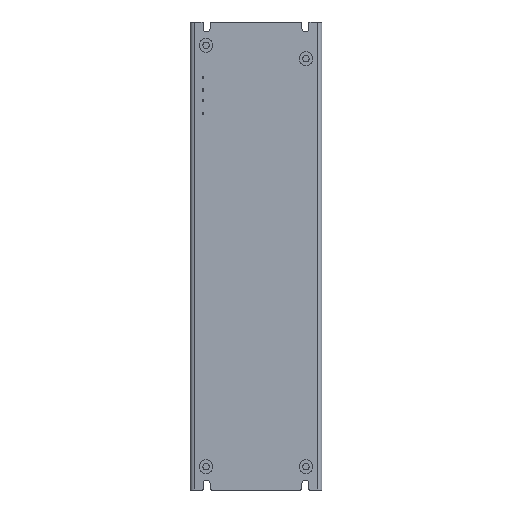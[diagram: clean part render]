
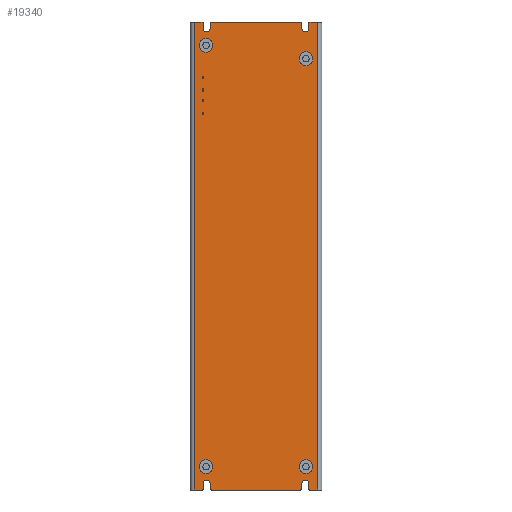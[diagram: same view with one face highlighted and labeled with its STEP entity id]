
A CAD part, front view. The second image highlights one B-rep face of the part: STEP entity #19340.
In plain terms, the highlighted planar face has unit normal (0, -1, 0) as drawn and (0, 0, -1) by its records, which use the part's own axes.
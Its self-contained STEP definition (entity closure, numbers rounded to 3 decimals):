
#970=CARTESIAN_POINT('',(27.973,50.41,178.));
#980=VERTEX_POINT('',#970);
#1010=CARTESIAN_POINT('',(27.473,50.41,178.));
#1020=DIRECTION('',(0.,0.,1.));
#1030=DIRECTION('',(0.,-1.,0.));
#1040=AXIS2_PLACEMENT_3D('',#1010,#1020,#1030);
#1050=CIRCLE('',#1040,0.5);
#1060=CARTESIAN_POINT('',(27.473,49.91,178.));
#1070=VERTEX_POINT('',#1060);
#1080=EDGE_CURVE('',#1070,#980,#1050,.T.);
#1660=CARTESIAN_POINT('',(27.473,49.91,178.));
#1670=DIRECTION('',(-1.,0.,0.));
#1680=VECTOR('',#1670,1.);
#1690=LINE('',#1660,#1680);
#1700=CARTESIAN_POINT('',(23.823,49.91,178.));
#1710=VERTEX_POINT('',#1700);
#1720=EDGE_CURVE('',#1070,#1710,#1690,.T.);
#16950=CARTESIAN_POINT('',(23.823,49.91,178.));
#16960=DIRECTION('',(0.,1.,0.));
#16970=VECTOR('',#16960,1.);
#16980=LINE('',#16950,#16970);
#16990=CARTESIAN_POINT('',(23.823,269.91,178.));
#17000=VERTEX_POINT('',#16990);
#17010=EDGE_CURVE('',#1710,#17000,#16980,.T.);
#17150=CARTESIAN_POINT('',(23.823,50.41,178.));
#17160=DIRECTION('',(0.,0.,-1.));
#17170=DIRECTION('',(-1.,0.,0.));
#17180=AXIS2_PLACEMENT_3D('',#17150,#17160,#17170);
#17190=PLANE('',#17180);
#17200=CARTESIAN_POINT('',(78.173,269.91,178.));
#17210=DIRECTION('',(1.,0.,0.));
#17220=VECTOR('',#17210,1.);
#17230=LINE('',#17200,#17220);
#17240=CARTESIAN_POINT('',(78.173,269.91,178.));
#17250=VERTEX_POINT('',#17240);
#17260=CARTESIAN_POINT('',(81.823,269.91,178.));
#17270=VERTEX_POINT('',#17260);
#17280=EDGE_CURVE('',#17250,#17270,#17230,.T.);
#17290=ORIENTED_EDGE('',*,*,#17280,.T.);
#17300=CARTESIAN_POINT('',(78.173,269.41,178.));
#17310=DIRECTION('',(0.,-0.,1.));
#17320=DIRECTION('',(0.,1.,0.));
#17330=AXIS2_PLACEMENT_3D('',#17300,#17310,#17320);
#17340=CIRCLE('',#17330,0.5);
#17350=CARTESIAN_POINT('',(77.673,269.41,178.));
#17360=VERTEX_POINT('',#17350);
#17370=EDGE_CURVE('',#17250,#17360,#17340,.T.);
#17380=ORIENTED_EDGE('',*,*,#17370,.F.);
#17390=CARTESIAN_POINT('',(77.673,266.91,178.));
#17400=DIRECTION('',(0.,1.,0.));
#17410=VECTOR('',#17400,1.);
#17420=LINE('',#17390,#17410);
#17430=CARTESIAN_POINT('',(77.673,266.91,178.));
#17440=VERTEX_POINT('',#17430);
#17450=EDGE_CURVE('',#17440,#17360,#17420,.T.);
#17460=ORIENTED_EDGE('',*,*,#17450,.T.);
#17470=CARTESIAN_POINT('',(76.023,266.91,178.));
#17480=DIRECTION('',(0.,0.,-1.));
#17490=DIRECTION('',(1.,0.,0.));
#17500=AXIS2_PLACEMENT_3D('',#17470,#17480,#17490);
#17510=CIRCLE('',#17500,1.65);
#17520=CARTESIAN_POINT('',(74.373,266.91,178.));
#17530=VERTEX_POINT('',#17520);
#17540=EDGE_CURVE('',#17440,#17530,#17510,.T.);
#17550=ORIENTED_EDGE('',*,*,#17540,.F.);
#17560=CARTESIAN_POINT('',(74.373,269.41,178.));
#17570=DIRECTION('',(0.,-1.,0.));
#17580=VECTOR('',#17570,1.);
#17590=LINE('',#17560,#17580);
#17600=CARTESIAN_POINT('',(74.373,269.41,178.));
#17610=VERTEX_POINT('',#17600);
#17620=EDGE_CURVE('',#17610,#17530,#17590,.T.);
#17630=ORIENTED_EDGE('',*,*,#17620,.T.);
#17640=CARTESIAN_POINT('',(73.873,269.41,178.));
#17650=DIRECTION('',(0.,0.,1.));
#17660=DIRECTION('',(1.,0.,0.));
#17670=AXIS2_PLACEMENT_3D('',#17640,#17650,#17660);
#17680=CIRCLE('',#17670,0.5);
#17690=CARTESIAN_POINT('',(73.873,269.91,178.));
#17700=VERTEX_POINT('',#17690);
#17710=EDGE_CURVE('',#17610,#17700,#17680,.T.);
#17720=ORIENTED_EDGE('',*,*,#17710,.F.);
#17730=CARTESIAN_POINT('',(31.773,269.91,178.));
#17740=DIRECTION('',(1.,0.,0.));
#17750=VECTOR('',#17740,1.);
#17760=LINE('',#17730,#17750);
#17770=CARTESIAN_POINT('',(31.773,269.91,178.));
#17780=VERTEX_POINT('',#17770);
#17790=EDGE_CURVE('',#17780,#17700,#17760,.T.);
#17800=ORIENTED_EDGE('',*,*,#17790,.T.);
#17810=CARTESIAN_POINT('',(31.773,269.41,178.));
#17820=DIRECTION('',(0.,-0.,1.));
#17830=DIRECTION('',(0.,1.,0.));
#17840=AXIS2_PLACEMENT_3D('',#17810,#17820,#17830);
#17850=CIRCLE('',#17840,0.5);
#17860=CARTESIAN_POINT('',(31.273,269.41,178.));
#17870=VERTEX_POINT('',#17860);
#17880=EDGE_CURVE('',#17780,#17870,#17850,.T.);
#17890=ORIENTED_EDGE('',*,*,#17880,.F.);
#17900=CARTESIAN_POINT('',(31.273,266.91,178.));
#17910=DIRECTION('',(0.,1.,0.));
#17920=VECTOR('',#17910,1.);
#17930=LINE('',#17900,#17920);
#17940=CARTESIAN_POINT('',(31.273,266.91,178.));
#17950=VERTEX_POINT('',#17940);
#17960=EDGE_CURVE('',#17950,#17870,#17930,.T.);
#17970=ORIENTED_EDGE('',*,*,#17960,.T.);
#17980=CARTESIAN_POINT('',(29.623,266.91,178.));
#17990=DIRECTION('',(0.,0.,-1.));
#18000=DIRECTION('',(1.,0.,0.));
#18010=AXIS2_PLACEMENT_3D('',#17980,#17990,#18000);
#18020=CIRCLE('',#18010,1.65);
#18030=CARTESIAN_POINT('',(27.973,266.91,178.));
#18040=VERTEX_POINT('',#18030);
#18050=EDGE_CURVE('',#17950,#18040,#18020,.T.);
#18060=ORIENTED_EDGE('',*,*,#18050,.F.);
#18070=CARTESIAN_POINT('',(27.973,269.41,178.));
#18080=DIRECTION('',(0.,-1.,0.));
#18090=VECTOR('',#18080,1.);
#18100=LINE('',#18070,#18090);
#18110=CARTESIAN_POINT('',(27.973,269.41,178.));
#18120=VERTEX_POINT('',#18110);
#18130=EDGE_CURVE('',#18120,#18040,#18100,.T.);
#18140=ORIENTED_EDGE('',*,*,#18130,.T.);
#18150=CARTESIAN_POINT('',(27.473,269.41,178.));
#18160=DIRECTION('',(0.,0.,1.));
#18170=DIRECTION('',(1.,0.,0.));
#18180=AXIS2_PLACEMENT_3D('',#18150,#18160,#18170);
#18190=CIRCLE('',#18180,0.5);
#18200=CARTESIAN_POINT('',(27.473,269.91,178.));
#18210=VERTEX_POINT('',#18200);
#18220=EDGE_CURVE('',#18120,#18210,#18190,.T.);
#18230=ORIENTED_EDGE('',*,*,#18220,.F.);
#18240=CARTESIAN_POINT('',(23.823,269.91,178.));
#18250=DIRECTION('',(1.,0.,0.));
#18260=VECTOR('',#18250,1.);
#18270=LINE('',#18240,#18260);
#18280=EDGE_CURVE('',#17000,#18210,#18270,.T.);
#18290=ORIENTED_EDGE('',*,*,#18280,.T.);
#18300=ORIENTED_EDGE('',*,*,#17010,.T.);
#18310=ORIENTED_EDGE('',*,*,#1720,.T.);
#18320=ORIENTED_EDGE('',*,*,#1080,.F.);
#18330=CARTESIAN_POINT('',(27.973,52.91,178.));
#18340=DIRECTION('',(0.,-1.,0.));
#18350=VECTOR('',#18340,1.);
#18360=LINE('',#18330,#18350);
#18370=CARTESIAN_POINT('',(27.973,52.91,178.));
#18380=VERTEX_POINT('',#18370);
#18390=EDGE_CURVE('',#18380,#980,#18360,.T.);
#18400=ORIENTED_EDGE('',*,*,#18390,.T.);
#18410=CARTESIAN_POINT('',(29.623,52.91,178.));
#18420=DIRECTION('',(0.,0.,-1.));
#18430=DIRECTION('',(-1.,0.,0.));
#18440=AXIS2_PLACEMENT_3D('',#18410,#18420,#18430);
#18450=CIRCLE('',#18440,1.65);
#18460=CARTESIAN_POINT('',(31.273,52.91,178.));
#18470=VERTEX_POINT('',#18460);
#18480=EDGE_CURVE('',#18380,#18470,#18450,.T.);
#18490=ORIENTED_EDGE('',*,*,#18480,.F.);
#18500=CARTESIAN_POINT('',(31.273,50.41,178.));
#18510=DIRECTION('',(0.,1.,0.));
#18520=VECTOR('',#18510,1.);
#18530=LINE('',#18500,#18520);
#18540=CARTESIAN_POINT('',(31.273,50.41,178.));
#18550=VERTEX_POINT('',#18540);
#18560=EDGE_CURVE('',#18550,#18470,#18530,.T.);
#18570=ORIENTED_EDGE('',*,*,#18560,.T.);
#18580=CARTESIAN_POINT('',(31.773,50.41,178.));
#18590=DIRECTION('',(0.,0.,1.));
#18600=DIRECTION('',(-1.,0.,0.));
#18610=AXIS2_PLACEMENT_3D('',#18580,#18590,#18600);
#18620=CIRCLE('',#18610,0.5);
#18630=CARTESIAN_POINT('',(31.773,49.91,178.));
#18640=VERTEX_POINT('',#18630);
#18650=EDGE_CURVE('',#18550,#18640,#18620,.T.);
#18660=ORIENTED_EDGE('',*,*,#18650,.F.);
#18670=CARTESIAN_POINT('',(73.873,49.91,178.));
#18680=DIRECTION('',(-1.,0.,0.));
#18690=VECTOR('',#18680,1.);
#18700=LINE('',#18670,#18690);
#18710=CARTESIAN_POINT('',(73.873,49.91,178.));
#18720=VERTEX_POINT('',#18710);
#18730=EDGE_CURVE('',#18720,#18640,#18700,.T.);
#18740=ORIENTED_EDGE('',*,*,#18730,.T.);
#18750=CARTESIAN_POINT('',(73.873,50.41,178.));
#18760=DIRECTION('',(0.,0.,1.));
#18770=DIRECTION('',(0.,-1.,0.));
#18780=AXIS2_PLACEMENT_3D('',#18750,#18760,#18770);
#18790=CIRCLE('',#18780,0.5);
#18800=CARTESIAN_POINT('',(74.373,50.41,178.));
#18810=VERTEX_POINT('',#18800);
#18820=EDGE_CURVE('',#18720,#18810,#18790,.T.);
#18830=ORIENTED_EDGE('',*,*,#18820,.F.);
#18840=CARTESIAN_POINT('',(74.373,52.91,178.));
#18850=DIRECTION('',(0.,-1.,0.));
#18860=VECTOR('',#18850,1.);
#18870=LINE('',#18840,#18860);
#18880=CARTESIAN_POINT('',(74.373,52.91,178.));
#18890=VERTEX_POINT('',#18880);
#18900=EDGE_CURVE('',#18890,#18810,#18870,.T.);
#18910=ORIENTED_EDGE('',*,*,#18900,.T.);
#18920=CARTESIAN_POINT('',(76.023,52.91,178.));
#18930=DIRECTION('',(0.,0.,-1.));
#18940=DIRECTION('',(-1.,0.,0.));
#18950=AXIS2_PLACEMENT_3D('',#18920,#18930,#18940);
#18960=CIRCLE('',#18950,1.65);
#18970=CARTESIAN_POINT('',(77.673,52.91,178.));
#18980=VERTEX_POINT('',#18970);
#18990=EDGE_CURVE('',#18890,#18980,#18960,.T.);
#19000=ORIENTED_EDGE('',*,*,#18990,.F.);
#19010=CARTESIAN_POINT('',(77.673,50.41,178.));
#19020=DIRECTION('',(0.,1.,0.));
#19030=VECTOR('',#19020,1.);
#19040=LINE('',#19010,#19030);
#19050=CARTESIAN_POINT('',(77.673,50.41,178.));
#19060=VERTEX_POINT('',#19050);
#19070=EDGE_CURVE('',#19060,#18980,#19040,.T.);
#19080=ORIENTED_EDGE('',*,*,#19070,.T.);
#19090=CARTESIAN_POINT('',(78.173,50.41,178.));
#19100=DIRECTION('',(0.,0.,1.));
#19110=DIRECTION('',(-1.,0.,0.));
#19120=AXIS2_PLACEMENT_3D('',#19090,#19100,#19110);
#19130=CIRCLE('',#19120,0.5);
#19140=CARTESIAN_POINT('',(78.173,49.91,178.));
#19150=VERTEX_POINT('',#19140);
#19160=EDGE_CURVE('',#19060,#19150,#19130,.T.);
#19170=ORIENTED_EDGE('',*,*,#19160,.F.);
#19180=CARTESIAN_POINT('',(81.823,49.91,178.));
#19190=DIRECTION('',(-1.,0.,0.));
#19200=VECTOR('',#19190,1.);
#19210=LINE('',#19180,#19200);
#19220=CARTESIAN_POINT('',(81.823,49.91,178.));
#19230=VERTEX_POINT('',#19220);
#19240=EDGE_CURVE('',#19230,#19150,#19210,.T.);
#19250=ORIENTED_EDGE('',*,*,#19240,.T.);
#19260=CARTESIAN_POINT('',(81.823,269.91,178.));
#19270=DIRECTION('',(0.,-1.,0.));
#19280=VECTOR('',#19270,1.);
#19290=LINE('',#19260,#19280);
#19300=EDGE_CURVE('',#17270,#19230,#19290,.T.);
#19310=ORIENTED_EDGE('',*,*,#19300,.T.);
#19320=EDGE_LOOP('',(#19310,#19250,#19170,#19080,#19000,#18910,#18830,
#18740,#18660,#18570,#18490,#18400,#18320,#18310,#18300,#18290,#18230,
#18140,#18060,#17970,#17890,#17800,#17720,#17630,#17550,#17460,#17380,
#17290));
#19330=FACE_OUTER_BOUND('',#19320,.T.);
#19340=ADVANCED_FACE('',(#19330),#17190,.T.);
